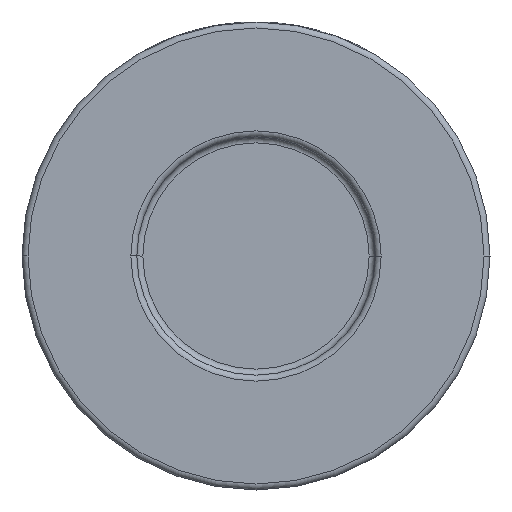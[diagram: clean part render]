
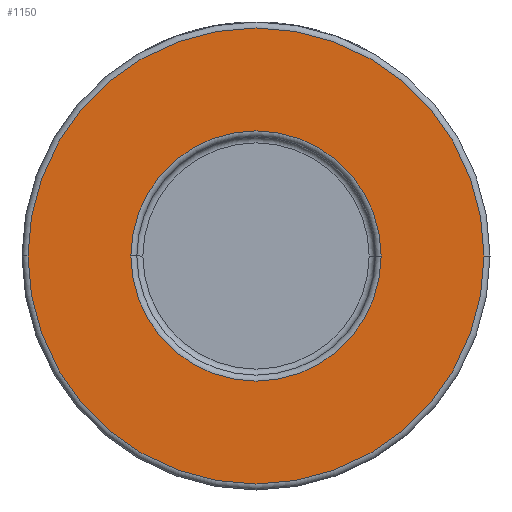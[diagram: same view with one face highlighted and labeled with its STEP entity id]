
A CAD part, front view. The second image highlights one B-rep face of the part: STEP entity #1150.
In plain terms, the highlighted planar face has unit normal (0, -1, 0).
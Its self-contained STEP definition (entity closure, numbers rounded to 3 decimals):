
#155 = DIRECTION ( 'NONE',  ( 0., -1., 0. ) ) ;
#409 = EDGE_LOOP ( 'NONE', ( #693, #1561 ) ) ;
#477 = ORIENTED_EDGE ( 'NONE', *, *, #735, .T. ) ;
#538 = EDGE_CURVE ( 'NONE', #2670, #4028, #3435, .T. ) ;
#563 = DIRECTION ( 'NONE',  ( 0., -1., 0. ) ) ;
#693 = ORIENTED_EDGE ( 'NONE', *, *, #538, .T. ) ;
#735 = EDGE_CURVE ( 'NONE', #3958, #4438, #1035, .T. ) ;
#813 = DIRECTION ( 'NONE',  ( 1., 0., 0. ) ) ;
#844 = DIRECTION ( 'NONE',  ( 1., 0., 0. ) ) ;
#1035 = CIRCLE ( 'NONE', #3655, 20.85 ) ;
#1079 = CARTESIAN_POINT ( 'NONE',  ( -20.85, -29., 0. ) ) ;
#1150 = ADVANCED_FACE ( 'NONE', ( #4006, #2308 ), #4433, .T. ) ;
#1415 = EDGE_CURVE ( 'NONE', #4028, #2670, #3857, .T. ) ;
#1433 = DIRECTION ( 'NONE',  ( 1., 0., 0. ) ) ;
#1438 = AXIS2_PLACEMENT_3D ( 'NONE', #2672, #4060, #844 ) ;
#1526 = AXIS2_PLACEMENT_3D ( 'NONE', #1559, #563, #2705 ) ;
#1559 = CARTESIAN_POINT ( 'NONE',  ( 0., -29., 0. ) ) ;
#1561 = ORIENTED_EDGE ( 'NONE', *, *, #1415, .T. ) ;
#1663 = DIRECTION ( 'NONE',  ( 0., 1., 0. ) ) ;
#1755 = CARTESIAN_POINT ( 'NONE',  ( -38., -29., 0. ) ) ;
#1784 = AXIS2_PLACEMENT_3D ( 'NONE', #2415, #4652, #1433 ) ;
#2176 = CIRCLE ( 'NONE', #1438, 20.85 ) ;
#2305 = ORIENTED_EDGE ( 'NONE', *, *, #3216, .T. ) ;
#2308 = FACE_OUTER_BOUND ( 'NONE', #409, .T. ) ;
#2360 = AXIS2_PLACEMENT_3D ( 'NONE', #3681, #155, #813 ) ;
#2415 = CARTESIAN_POINT ( 'NONE',  ( 0., -29., 0. ) ) ;
#2670 = VERTEX_POINT ( 'NONE', #3565 ) ;
#2672 = CARTESIAN_POINT ( 'NONE',  ( 0., -29., 0. ) ) ;
#2705 = DIRECTION ( 'NONE',  ( 1., 0., 0. ) ) ;
#3006 = CARTESIAN_POINT ( 'NONE',  ( 20.85, -29., 0. ) ) ;
#3020 = DIRECTION ( 'NONE',  ( 1., 0., 0. ) ) ;
#3216 = EDGE_CURVE ( 'NONE', #4438, #3958, #2176, .T. ) ;
#3375 = EDGE_LOOP ( 'NONE', ( #2305, #477 ) ) ;
#3435 = CIRCLE ( 'NONE', #1784, 38. ) ;
#3565 = CARTESIAN_POINT ( 'NONE',  ( 38., -29., 0. ) ) ;
#3655 = AXIS2_PLACEMENT_3D ( 'NONE', #4081, #1663, #3020 ) ;
#3681 = CARTESIAN_POINT ( 'NONE',  ( 39., -29., 0. ) ) ;
#3857 = CIRCLE ( 'NONE', #1526, 38. ) ;
#3958 = VERTEX_POINT ( 'NONE', #1079 ) ;
#4006 = FACE_BOUND ( 'NONE', #3375, .T. ) ;
#4028 = VERTEX_POINT ( 'NONE', #1755 ) ;
#4060 = DIRECTION ( 'NONE',  ( 0., 1., 0. ) ) ;
#4081 = CARTESIAN_POINT ( 'NONE',  ( 0., -29., 0. ) ) ;
#4433 = PLANE ( 'NONE',  #2360 ) ;
#4438 = VERTEX_POINT ( 'NONE', #3006 ) ;
#4652 = DIRECTION ( 'NONE',  ( 0., -1., 0. ) ) ;
